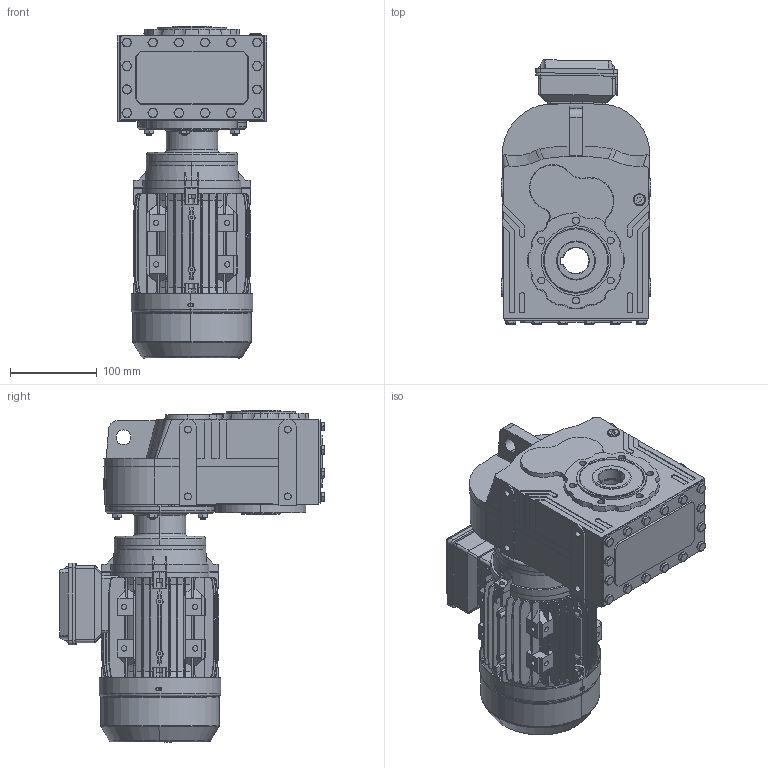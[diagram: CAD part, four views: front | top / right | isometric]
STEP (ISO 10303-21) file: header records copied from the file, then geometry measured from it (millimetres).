
FILE_DESCRIPTION (( 'STEP AP203' ), '1' );
FILE_NAME ('DV_173_0_MX71.STEP', '2018-11-20T10:22:50', ( '' ), ( '' ), 'SwSTEP 2.0', 'SolidWorks 2012', '' );
FILE_SCHEMA (( 'CONFIG_CONTROL_DESIGN' ));
Products named in the file (12): Lüfterhaube_MS71; MX71_B14; DV_173_0_MX71; B14-Flansch_MS71; L黤terfl黦el_MS71; Klemmkastenoberteil_MS71; Klemmenkastenunterteil_MS71; B-Lagerschild_MS71; ML16A_Varsayìlan; Gehäuse_MS71L; D173_Varsayìlan; 0371B14_Varsayìlan
Assembly tree (11 placements, depth 3):
  DV_173_0_MX71
    D173_Varsayìlan
    0371B14_Varsayìlan
    ML16A_Varsayìlan
    MX71_B14
      Gehäuse_MS71L
      B-Lagerschild_MS71
      B14-Flansch_MS71
      Klemmenkastenunterteil_MS71
      Klemmkastenoberteil_MS71
      L黤terfl黦el_MS71
      Lüfterhaube_MS71
Bounding box: 172 x 304.31 x 382.21 mm (x, y, z)
Volume: 4554967.8 mm3; surface area: 753791.3 mm2
Topology: 10 solids, 63 shells, 3195 faces, 8329 edges, 5271 vertices
Faces by surface type: plane 1493, cylinder 866, cone 671, bspline 155, torus 10
Entity records: 115393 total; most frequent: CARTESIAN_POINT 37372, ORIENTED_EDGE 16646, DIRECTION 15174, EDGE_CURVE 8323, AXIS2_PLACEMENT_3D 5412, VERTEX_POINT 5271, VECTOR 4350, LINE 4350
